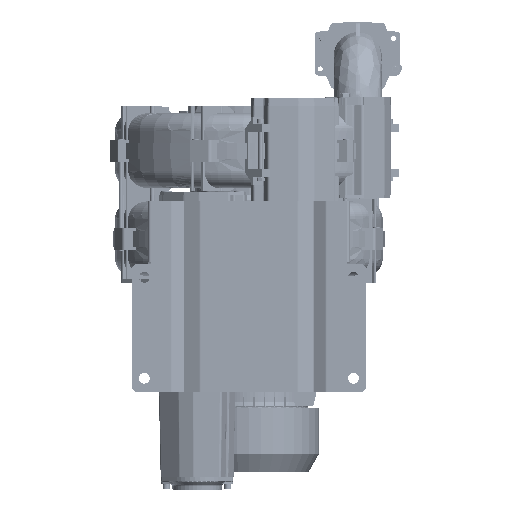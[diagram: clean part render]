
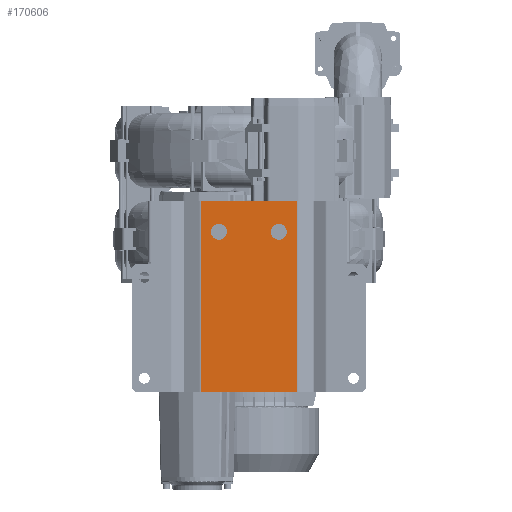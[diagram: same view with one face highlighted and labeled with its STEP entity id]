
A CAD part, front view. The second image highlights one B-rep face of the part: STEP entity #170606.
In plain terms, the highlighted planar face has unit normal (0, -1, 0).
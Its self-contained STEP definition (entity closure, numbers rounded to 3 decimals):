
#5639 = LINE ( 'NONE', #70641, #153440 ) ;
#7523 = PLANE ( 'NONE',  #123357 ) ;
#10582 = VERTEX_POINT ( 'NONE', #148351 ) ;
#10735 = ORIENTED_EDGE ( 'NONE', *, *, #46811, .F. ) ;
#12922 = CIRCLE ( 'NONE', #95316, 11. ) ;
#17554 = AXIS2_PLACEMENT_3D ( 'NONE', #31666, #19220, #168527 ) ;
#19220 = DIRECTION ( 'NONE',  ( 0., 1., 0. ) ) ;
#19509 = ORIENTED_EDGE ( 'NONE', *, *, #37015, .T. ) ;
#24297 = ORIENTED_EDGE ( 'NONE', *, *, #40735, .T. ) ;
#30281 = CARTESIAN_POINT ( 'NONE',  ( 67.005, -232., 200. ) ) ;
#31666 = CARTESIAN_POINT ( 'NONE',  ( 41.5, -232., 157. ) ) ;
#35088 = DIRECTION ( 'NONE',  ( -1., 0., 0. ) ) ;
#37015 = EDGE_CURVE ( 'NONE', #124691, #119782, #58077, .T. ) ;
#40604 = DIRECTION ( 'NONE',  ( -1., 0., 0. ) ) ;
#40735 = EDGE_CURVE ( 'NONE', #97315, #124691, #121523, .T. ) ;
#40863 = EDGE_CURVE ( 'NONE', #106563, #106563, #62959, .T. ) ;
#46430 = CARTESIAN_POINT ( 'NONE',  ( 67.005, -232., -65. ) ) ;
#46811 = EDGE_CURVE ( 'NONE', #10582, #10582, #12922, .T. ) ;
#48793 = EDGE_CURVE ( 'NONE', #106686, #119782, #5639, .T. ) ;
#54074 = CARTESIAN_POINT ( 'NONE',  ( 30.5, -232., 157. ) ) ;
#58077 = LINE ( 'NONE', #99861, #116285 ) ;
#59867 = DIRECTION ( 'NONE',  ( -1., 0., 0. ) ) ;
#61739 = CARTESIAN_POINT ( 'NONE',  ( 67.005, -232., 200. ) ) ;
#62959 = CIRCLE ( 'NONE', #17554, 11. ) ;
#65183 = EDGE_LOOP ( 'NONE', ( #10735 ) ) ;
#70641 = CARTESIAN_POINT ( 'NONE',  ( 67.005, -232., -65. ) ) ;
#70697 = ORIENTED_EDGE ( 'NONE', *, *, #40863, .T. ) ;
#71494 = VECTOR ( 'NONE', #40604, 1000. ) ;
#95054 = CARTESIAN_POINT ( 'NONE',  ( -41.5, -232., 157. ) ) ;
#95316 = AXIS2_PLACEMENT_3D ( 'NONE', #95054, #96809, #162626 ) ;
#96809 = DIRECTION ( 'NONE',  ( 0., -1., 0. ) ) ;
#97315 = VERTEX_POINT ( 'NONE', #30281 ) ;
#99861 = CARTESIAN_POINT ( 'NONE',  ( -67.005, -232., 200. ) ) ;
#101741 = LINE ( 'NONE', #129299, #134988 ) ;
#104724 = EDGE_CURVE ( 'NONE', #97315, #106686, #101741, .T. ) ;
#106563 = VERTEX_POINT ( 'NONE', #54074 ) ;
#106686 = VERTEX_POINT ( 'NONE', #46430 ) ;
#115099 = FACE_BOUND ( 'NONE', #65183, .T. ) ;
#115981 = DIRECTION ( 'NONE',  ( 0., -1., 0. ) ) ;
#116285 = VECTOR ( 'NONE', #154087, 1000. ) ;
#119782 = VERTEX_POINT ( 'NONE', #144889 ) ;
#121523 = LINE ( 'NONE', #162415, #71494 ) ;
#123357 = AXIS2_PLACEMENT_3D ( 'NONE', #61739, #115981, #35088 ) ;
#124521 = CARTESIAN_POINT ( 'NONE',  ( -67.005, -232., 200. ) ) ;
#124691 = VERTEX_POINT ( 'NONE', #124521 ) ;
#129299 = CARTESIAN_POINT ( 'NONE',  ( 67.005, -232., 200. ) ) ;
#133443 = EDGE_LOOP ( 'NONE', ( #70697 ) ) ;
#134988 = VECTOR ( 'NONE', #154213, 1000. ) ;
#141828 = FACE_BOUND ( 'NONE', #133443, .T. ) ;
#144889 = CARTESIAN_POINT ( 'NONE',  ( -67.005, -232., -65. ) ) ;
#147251 = ORIENTED_EDGE ( 'NONE', *, *, #48793, .F. ) ;
#148351 = CARTESIAN_POINT ( 'NONE',  ( -30.5, -232., 157. ) ) ;
#153440 = VECTOR ( 'NONE', #59867, 1000. ) ;
#154087 = DIRECTION ( 'NONE',  ( 0., 0., -1. ) ) ;
#154213 = DIRECTION ( 'NONE',  ( 0., 0., -1. ) ) ;
#156855 = FACE_OUTER_BOUND ( 'NONE', #159354, .T. ) ;
#159354 = EDGE_LOOP ( 'NONE', ( #147251, #167934, #24297, #19509 ) ) ;
#162415 = CARTESIAN_POINT ( 'NONE',  ( 67.005, -232., 200. ) ) ;
#162626 = DIRECTION ( 'NONE',  ( 1., 0., 0. ) ) ;
#167934 = ORIENTED_EDGE ( 'NONE', *, *, #104724, .F. ) ;
#168527 = DIRECTION ( 'NONE',  ( -1., 0., 0. ) ) ;
#170606 = ADVANCED_FACE ( 'NONE', ( #141828, #156855, #115099 ), #7523, .T. ) ;
